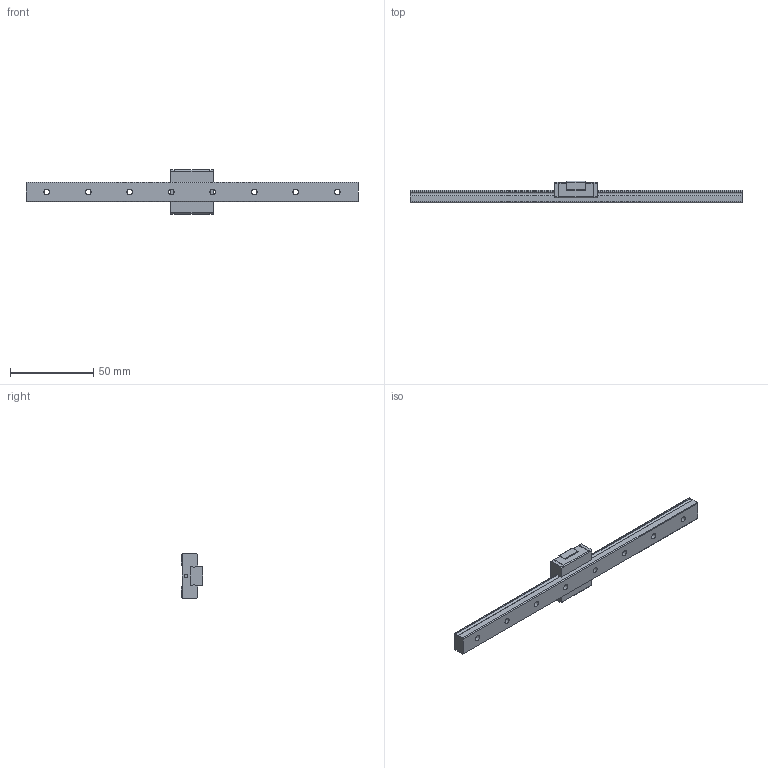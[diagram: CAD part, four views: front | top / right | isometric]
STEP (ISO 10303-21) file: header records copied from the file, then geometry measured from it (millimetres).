
FILE_DESCRIPTION(/* description */ ('STEP AP203'),/* implementation_level */ '2;1');
FILE_NAME(/* name */ 'RSX12SMUU-200LM_G12-5_0_Without grease nipple_87-2_0_0_0_1',/* time_stamp */ '2024-05-21T10:25:34+02:00',/* author */ ('License CC BY-ND 4.0'),/* organization */ ('CADENAS'),/* preprocessor_version */ 'ST-DEVELOPER v19.3',/* originating_system */ 'PARTsolutions',/* authorisation */ ' ');
FILE_SCHEMA (('CONFIG_CONTROL_DESIGN'));
Length unit declared in the file: millimetre
Products named in the file (3): RSX12SMUU-200LM_G12-5_0_Without grease nipple_87-2_0_0_0_1; RSX12M20012.5 Track; RSX12SMUU1 Slider
Assembly tree (2 placements, depth 2):
  RSX12SMUU-200LM_G12-5_0_Without grease nipple_87-2_0_0_0_1
    RSX12M20012.5 Track
    RSX12SMUU1 Slider
Bounding box: 200 x 13 x 27 mm (x, y, z)
Volume: 21313.6 mm3; surface area: 11429.5 mm2
Topology: 2 solids, 2 shells, 124 faces, 318 edges, 210 vertices
Faces by surface type: plane 88, cylinder 32, cone 4
Full cylindrical faces by diameter (mm): 2 x2, 2.459 x2, 3.5 x8, 6 x8
Entity records: 3707 total; most frequent: CARTESIAN_POINT 625, DIRECTION 618, ORIENTED_EDGE 580, EDGE_CURVE 290, LINE 216, VECTOR 216, VERTEX_POINT 208, AXIS2_PLACEMENT_3D 201
